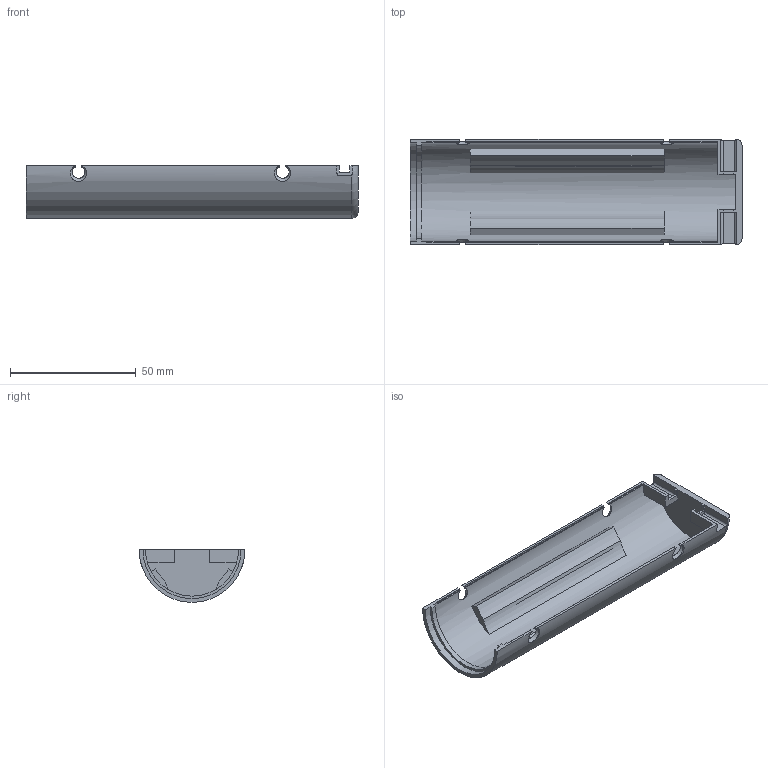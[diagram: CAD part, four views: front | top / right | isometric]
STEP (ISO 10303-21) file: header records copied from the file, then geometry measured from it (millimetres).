
FILE_DESCRIPTION(('Open CASCADE Model'),'2;1');
FILE_NAME('Open CASCADE Shape Model','2026-11-09T05:25:38',('Author'),( 'Open CASCADE'),'Open CASCADE STEP processor 8.0','build123d', 'Unknown');
FILE_SCHEMA(('AUTOMOTIVE_DESIGN { 1 0 10303 214 1 1 1 1 }'));
Length unit declared in the file: millimetre
Products named in the file (1): COMPOUND
Bounding box: 132 x 42 x 21 mm (x, y, z)
Volume: 16966.7 mm3; surface area: 21488.8 mm2
Topology: 1 solids, 3 shells, 87 faces, 237 edges, 158 vertices
Faces by surface type: plane 56, cylinder 26, cone 4, torus 1
Entity records: 11656 total; most frequent: CARTESIAN_POINT 7439, DIRECTION 627, ORIENTED_EDGE 474, PCURVE 474, DEFINITIONAL_REPRESENTATION 474, B_SPLINE_CURVE_WITH_KNOTS 310, LINE 272, VECTOR 272
